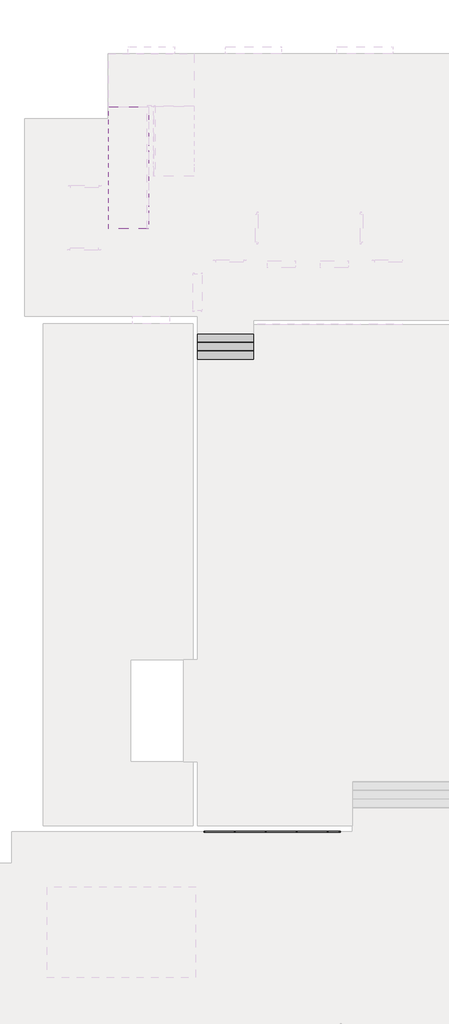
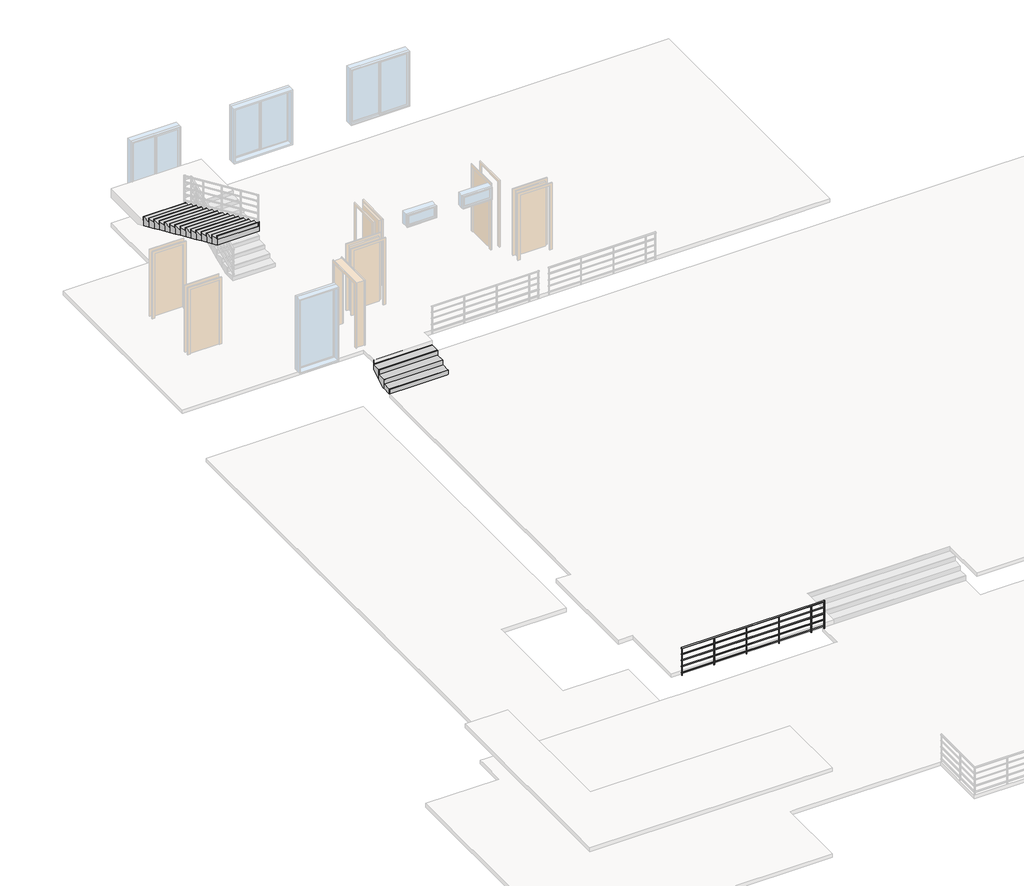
# One storey, part 3 of 5: 2 stair flights, 1 railing.
"""IFC4 building model written with IfcOpenShell, lengths in millimetres."""

from ifc_helpers import new_model, si_unit, point, frame, frame_2d, origin, place, context, project, spatial, polyline, circle_curve, trimmed, segment, composite_curve, outline, extrude, faceted_brep, element, save

model = new_model("IFC4")

# Units and contexts
model_context = context("Model", 3, world=origin())
ifc_project = project(units=[si_unit("LENGTHUNIT", "METRE", prefix="MILLI")], contexts=[model_context])

# Site, building, storey
site = spatial("IfcSite", under=ifc_project)
building = spatial("IfcBuilding", under=site)
storey = spatial("IfcBuildingStorey", under=building, Name="标高 1", Elevation=0.0)

# Railing
placement = place(None, origin())
element("IfcRailing", 1, ObjectType="900mm 圆管", at=placement, inside=storey, context=model_context, shape_type="SweptSolid", body=[
    extrude(outline(composite_curve([segment(trimmed(circle_curve(frame_2d((544.1658649, 1480.0)), 20.0), [point((524.1658649, 1480.0))], [point((564.1658649, 1480.0))], False, "CARTESIAN"), True, "CONTINUOUS"), segment(trimmed(circle_curve(frame_2d((544.1658649, 1480.0)), 20.0), [point((564.1658649, 1480.0))], [point((524.1658649, 1480.0))], False, "CARTESIAN"), True, "CONTINUOUS")], self_intersect=False)), frame((-2663.2622628, 0.0, 0.0), z_axis=(1.0, 0.0, 0.0), x_axis=(0.0, 1.0, 0.0)), (0.0, 0.0, 1.0), 4400.0),
    extrude(outline(composite_curve([segment(trimmed(circle_curve(frame_2d((544.1658649, 1285.0)), 15.0), [point((559.1658649, 1285.0))], [point((529.1658649, 1285.0))], False, "CARTESIAN"), True, "CONTINUOUS"), segment(trimmed(circle_curve(frame_2d((544.1658649, 1285.0)), 15.0), [point((529.1658649, 1285.0))], [point((559.1658649, 1285.0))], False, "CARTESIAN"), True, "CONTINUOUS")], self_intersect=False)), frame((-2663.2622628, 0.0, 0.0), z_axis=(1.0, 0.0, 0.0), x_axis=(0.0, 1.0, 0.0)), (0.0, 0.0, 1.0), 4400.0),
    extrude(outline(composite_curve([segment(trimmed(circle_curve(frame_2d((544.1658649, 1085.0)), 15.0), [point((559.1658649, 1085.0))], [point((529.1658649, 1085.0))], False, "CARTESIAN"), True, "CONTINUOUS"), segment(trimmed(circle_curve(frame_2d((544.1658649, 1085.0)), 15.0), [point((529.1658649, 1085.0))], [point((559.1658649, 1085.0))], False, "CARTESIAN"), True, "CONTINUOUS")], self_intersect=False)), frame((-2663.2622628, 0.0, 0.0), z_axis=(1.0, 0.0, 0.0), x_axis=(0.0, 1.0, 0.0)), (0.0, 0.0, 1.0), 4400.0),
    extrude(outline(composite_curve([segment(trimmed(circle_curve(frame_2d((544.1658649, 885.0)), 15.0), [point((559.1658649, 885.0))], [point((529.1658649, 885.0))], False, "CARTESIAN"), True, "CONTINUOUS"), segment(trimmed(circle_curve(frame_2d((544.1658649, 885.0)), 15.0), [point((529.1658649, 885.0))], [point((559.1658649, 885.0))], False, "CARTESIAN"), True, "CONTINUOUS")], self_intersect=False)), frame((-2663.2622628, 0.0, 0.0), z_axis=(1.0, 0.0, 0.0), x_axis=(0.0, 1.0, 0.0)), (0.0, 0.0, 1.0), 4400.0),
    extrude(outline(composite_curve([segment(trimmed(circle_curve(frame_2d((544.1658649, 685.0)), 15.0), [point((559.1658649, 685.0))], [point((529.1658649, 685.0))], False, "CARTESIAN"), True, "CONTINUOUS"), segment(trimmed(circle_curve(frame_2d((544.1658649, 685.0)), 15.0), [point((529.1658649, 685.0))], [point((559.1658649, 685.0))], False, "CARTESIAN"), True, "CONTINUOUS")], self_intersect=False)), frame((-2663.2622628, 0.0, 0.0), z_axis=(1.0, 0.0, 0.0), x_axis=(0.0, 1.0, 0.0)), (0.0, 0.0, 1.0), 4400.0),
    extrude(outline(composite_curve([segment(trimmed(circle_curve(frame_2d((1336.7377372, 544.1658649)), 12.5), [point((1336.7377372, 556.6658649))], [point((1336.7377372, 531.6658649))], False, "CARTESIAN"), True, "CONTINUOUS"), segment(trimmed(circle_curve(frame_2d((1336.7377372, 544.1658649)), 12.5), [point((1336.7377372, 531.6658649))], [point((1336.7377372, 556.6658649))], False, "CARTESIAN"), True, "CONTINUOUS")], self_intersect=False)), frame((0.0, 0.0, 600.0), z_axis=(0.0, 0.0, 1.0), x_axis=(1.0, 0.0, 0.0)), (0.0, 0.0, 1.0), 860.0),
    extrude(outline(composite_curve([segment(trimmed(circle_curve(frame_2d((336.7377372, 544.1658649)), 12.5), [point((336.7377372, 556.6658649))], [point((336.7377372, 531.6658649))], False, "CARTESIAN"), True, "CONTINUOUS"), segment(trimmed(circle_curve(frame_2d((336.7377372, 544.1658649)), 12.5), [point((336.7377372, 531.6658649))], [point((336.7377372, 556.6658649))], False, "CARTESIAN"), True, "CONTINUOUS")], self_intersect=False)), frame((0.0, 0.0, 600.0), z_axis=(0.0, 0.0, 1.0), x_axis=(1.0, 0.0, 0.0)), (0.0, 0.0, 1.0), 860.0),
    extrude(outline(composite_curve([segment(trimmed(circle_curve(frame_2d((-663.2622628, 544.1658649)), 12.5), [point((-663.2622628, 556.6658649))], [point((-663.2622628, 531.6658649))], False, "CARTESIAN"), True, "CONTINUOUS"), segment(trimmed(circle_curve(frame_2d((-663.2622628, 544.1658649)), 12.5), [point((-663.2622628, 531.6658649))], [point((-663.2622628, 556.6658649))], False, "CARTESIAN"), True, "CONTINUOUS")], self_intersect=False)), frame((0.0, 0.0, 600.0), z_axis=(0.0, 0.0, 1.0), x_axis=(1.0, 0.0, 0.0)), (0.0, 0.0, 1.0), 860.0),
    extrude(outline(composite_curve([segment(trimmed(circle_curve(frame_2d((-1663.2622628, 544.1658649)), 12.5), [point((-1663.2622628, 556.6658649))], [point((-1663.2622628, 531.6658649))], False, "CARTESIAN"), True, "CONTINUOUS"), segment(trimmed(circle_curve(frame_2d((-1663.2622628, 544.1658649)), 12.5), [point((-1663.2622628, 531.6658649))], [point((-1663.2622628, 556.6658649))], False, "CARTESIAN"), True, "CONTINUOUS")], self_intersect=False)), frame((0.0, 0.0, 600.0), z_axis=(0.0, 0.0, 1.0), x_axis=(1.0, 0.0, 0.0)), (0.0, 0.0, 1.0), 860.0),
    extrude(outline(composite_curve([segment(trimmed(circle_curve(frame_2d((1724.2377372, 544.1658649)), 12.5), [point((1724.2377372, 556.6658649))], [point((1724.2377372, 531.6658649))], False, "CARTESIAN"), True, "CONTINUOUS"), segment(trimmed(circle_curve(frame_2d((1724.2377372, 544.1658649)), 12.5), [point((1724.2377372, 531.6658649))], [point((1724.2377372, 556.6658649))], False, "CARTESIAN"), True, "CONTINUOUS")], self_intersect=False)), frame((0.0, 0.0, 600.0), z_axis=(0.0, 0.0, 1.0), x_axis=(1.0, 0.0, 0.0)), (0.0, 0.0, 1.0), 860.0),
    extrude(outline(composite_curve([segment(trimmed(circle_curve(frame_2d((-2650.7622628, 544.1658649)), 12.5), [point((-2650.7622628, 556.6658649))], [point((-2650.7622628, 531.6658649))], False, "CARTESIAN"), True, "CONTINUOUS"), segment(trimmed(circle_curve(frame_2d((-2650.7622628, 544.1658649)), 12.5), [point((-2650.7622628, 531.6658649))], [point((-2650.7622628, 556.6658649))], False, "CARTESIAN"), True, "CONTINUOUS")], self_intersect=False)), frame((0.0, 0.0, 600.0), z_axis=(0.0, 0.0, 1.0), x_axis=(1.0, 0.0, 0.0)), (0.0, 0.0, 1.0), 860.0),
])

# Stair flights
element("IfcStairFlight", 2, ObjectType="150mm 结构深度", at=placement, inside=storey, context=model_context, shape_type="SolidModel", body=[
    faceted_brep([(-4443.2622628, 23631.6658649, 2450.0), (-4443.2622628, 23911.6658649, 2450.0), (-5743.2622628, 23911.6658649, 2450.0), (-5743.2622628, 23631.6658649, 2450.0), (-4443.2622628, 23631.6658649, 2285.7312703), (-4443.2622628, 23911.6658649, 2160.7312703), (-4443.2622628, 23911.6658649, 2325.0), (-5743.2622628, 23911.6658649, 2160.7312703), (-5743.2622628, 23911.6658649, 2325.0), (-5743.2622628, 23631.6658649, 2285.7312703), (-4443.2622628, 23351.6658649, 2575.0), (-4443.2622628, 23631.6658649, 2575.0), (-5743.2622628, 23631.6658649, 2575.0), (-5743.2622628, 23351.6658649, 2575.0), (-4443.2622628, 23351.6658649, 2410.7312703), (-5743.2622628, 23351.6658649, 2410.7312703), (-4443.2622628, 23071.6658649, 2700.0), (-4443.2622628, 23351.6658649, 2700.0), (-5743.2622628, 23351.6658649, 2700.0), (-5743.2622628, 23071.6658649, 2700.0), (-4443.2622628, 23071.6658649, 2535.7312703), (-5743.2622628, 23071.6658649, 2535.7312703), (-4443.2622628, 22791.6658649, 2825.0), (-4443.2622628, 23071.6658649, 2825.0), (-5743.2622628, 23071.6658649, 2825.0), (-5743.2622628, 22791.6658649, 2825.0), (-4443.2622628, 22791.6658649, 2660.7312703), (-5743.2622628, 22791.6658649, 2660.7312703), (-4443.2622628, 22511.6658649, 2950.0), (-4443.2622628, 22791.6658649, 2950.0), (-5743.2622628, 22791.6658649, 2950.0), (-5743.2622628, 22511.6658649, 2950.0), (-4443.2622628, 22511.6658649, 2785.7312703), (-5743.2622628, 22511.6658649, 2785.7312703), (-4443.2622628, 22231.6658649, 3075.0), (-4443.2622628, 22511.6658649, 3075.0), (-5743.2622628, 22511.6658649, 3075.0), (-5743.2622628, 22231.6658649, 3075.0), (-4443.2622628, 22231.6658649, 2910.7312703), (-5743.2622628, 22231.6658649, 2910.7312703), (-4443.2622628, 21951.6658649, 3200.0), (-4443.2622628, 22231.6658649, 3200.0), (-5743.2622628, 22231.6658649, 3200.0), (-5743.2622628, 21951.6658649, 3200.0), (-4443.2622628, 21951.6658649, 3035.7312703), (-5743.2622628, 21951.6658649, 3035.7312703), (-4443.2622628, 21671.6658649, 3325.0), (-4443.2622628, 21951.6658649, 3325.0), (-5743.2622628, 21951.6658649, 3325.0), (-5743.2622628, 21671.6658649, 3325.0), (-4443.2622628, 21671.6658649, 3160.7312703), (-5743.2622628, 21671.6658649, 3160.7312703), (-4443.2622628, 21391.6658649, 3450.0), (-4443.2622628, 21671.6658649, 3450.0), (-5743.2622628, 21671.6658649, 3450.0), (-5743.2622628, 21391.6658649, 3450.0), (-4443.2622628, 21391.6658649, 3285.7312703), (-5743.2622628, 21391.6658649, 3285.7312703), (-4443.2622628, 21111.6658649, 3575.0), (-4443.2622628, 21391.6658649, 3575.0), (-5743.2622628, 21391.6658649, 3575.0), (-5743.2622628, 21111.6658649, 3575.0), (-4443.2622628, 21111.6658649, 3410.7312703), (-5743.2622628, 21111.6658649, 3410.7312703), (-4443.2622628, 20831.6658649, 3700.0), (-4443.2622628, 21111.6658649, 3700.0), (-5743.2622628, 21111.6658649, 3700.0), (-5743.2622628, 20831.6658649, 3700.0), (-4443.2622628, 20831.6658649, 3535.7312703), (-5743.2622628, 20831.6658649, 3535.7312703), (-4443.2622628, 20551.6658649, 3825.0), (-4443.2622628, 20831.6658649, 3825.0), (-5743.2622628, 20831.6658649, 3825.0), (-5743.2622628, 20551.6658649, 3825.0), (-4443.2622628, 20551.6658649, 3660.7312703), (-5743.2622628, 20551.6658649, 3660.7312703), (-4443.2622628, 20271.6658649, 3950.0), (-4443.2622628, 20551.6658649, 3950.0), (-5743.2622628, 20551.6658649, 3950.0), (-5743.2622628, 20271.6658649, 3950.0), (-4443.2622628, 20271.6658649, 3785.7312703), (-5743.2622628, 20271.6658649, 3785.7312703), (-4443.2622628, 19991.6658649, 4075.0), (-4443.2622628, 20271.6658649, 4075.0), (-5743.2622628, 20271.6658649, 4075.0), (-5743.2622628, 19991.6658649, 4075.0), (-4443.2622628, 19991.6658649, 3910.7312703), (-5743.2622628, 19991.6658649, 3910.7312703)], [[[0, 1, 2, 3]], [[1, 0, 4, 5, 6]], [[2, 1, 6, 5, 7, 8]], [[3, 2, 8, 7, 9]], [[10, 11, 12, 13]], [[11, 10, 14, 4, 0]], [[12, 11, 0, 3]], [[13, 12, 3, 9, 15]], [[16, 17, 18, 19]], [[17, 16, 20, 14, 10]], [[18, 17, 10, 13]], [[19, 18, 13, 15, 21]], [[22, 23, 24, 25]], [[23, 22, 26, 20, 16]], [[24, 23, 16, 19]], [[25, 24, 19, 21, 27]], [[28, 29, 30, 31]], [[29, 28, 32, 26, 22]], [[30, 29, 22, 25]], [[31, 30, 25, 27, 33]], [[34, 35, 36, 37]], [[35, 34, 38, 32, 28]], [[36, 35, 28, 31]], [[37, 36, 31, 33, 39]], [[40, 41, 42, 43]], [[41, 40, 44, 38, 34]], [[42, 41, 34, 37]], [[43, 42, 37, 39, 45]], [[46, 47, 48, 49]], [[47, 46, 50, 44, 40]], [[48, 47, 40, 43]], [[49, 48, 43, 45, 51]], [[52, 53, 54, 55]], [[53, 52, 56, 50, 46]], [[54, 53, 46, 49]], [[55, 54, 49, 51, 57]], [[58, 59, 60, 61]], [[59, 58, 62, 56, 52]], [[60, 59, 52, 55]], [[61, 60, 55, 57, 63]], [[64, 65, 66, 67]], [[65, 64, 68, 62, 58]], [[66, 65, 58, 61]], [[67, 66, 61, 63, 69]], [[70, 71, 72, 73]], [[71, 70, 74, 68, 64]], [[72, 71, 64, 67]], [[73, 72, 67, 69, 75]], [[76, 77, 78, 79]], [[77, 76, 80, 74, 70]], [[78, 77, 70, 73]], [[79, 78, 73, 75, 81]], [[82, 83, 84, 85]], [[83, 82, 86, 80, 76]], [[84, 83, 76, 79]], [[85, 84, 79, 81, 87]], [[82, 85, 87, 86]], [[5, 4, 14, 20, 26, 32, 38, 44, 50, 56, 62, 68, 74, 80, 86, 87, 81, 75, 69, 63, 57, 51, 45, 39, 33, 27, 21, 15, 9, 7]]]),
    extrude(outline(polyline([(-5743.2622628, 23911.6658649), (-5743.2622628, 23924.1658649), (-4443.2622628, 23924.1658649), (-4443.2622628, 23911.6658649), (-5743.2622628, 23911.6658649)])), frame((0.0, 0.0, 2325.0), z_axis=(0.0, 0.0, 1.0), x_axis=(1.0, 0.0, 0.0)), (0.0, 0.0, 1.0), 125.0),
    extrude(outline(polyline([(-5743.2622628, 23631.6658649), (-5743.2622628, 23644.1658649), (-4443.2622628, 23644.1658649), (-4443.2622628, 23631.6658649), (-5743.2622628, 23631.6658649)])), frame((0.0, 0.0, 2450.0), z_axis=(0.0, 0.0, 1.0), x_axis=(1.0, 0.0, 0.0)), (0.0, 0.0, 1.0), 125.0),
    extrude(outline(polyline([(-5743.2622628, 23351.6658649), (-5743.2622628, 23364.1658649), (-4443.2622628, 23364.1658649), (-4443.2622628, 23351.6658649), (-5743.2622628, 23351.6658649)])), frame((0.0, 0.0, 2575.0), z_axis=(0.0, 0.0, 1.0), x_axis=(1.0, 0.0, 0.0)), (0.0, 0.0, 1.0), 125.0),
    extrude(outline(polyline([(-5743.2622628, 23071.6658649), (-5743.2622628, 23084.1658649), (-4443.2622628, 23084.1658649), (-4443.2622628, 23071.6658649), (-5743.2622628, 23071.6658649)])), frame((0.0, 0.0, 2700.0), z_axis=(0.0, 0.0, 1.0), x_axis=(1.0, 0.0, 0.0)), (0.0, 0.0, 1.0), 125.0),
    extrude(outline(polyline([(-5743.2622628, 22791.6658649), (-5743.2622628, 22804.1658649), (-4443.2622628, 22804.1658649), (-4443.2622628, 22791.6658649), (-5743.2622628, 22791.6658649)])), frame((0.0, 0.0, 2825.0), z_axis=(0.0, 0.0, 1.0), x_axis=(1.0, 0.0, 0.0)), (0.0, 0.0, 1.0), 125.0),
    extrude(outline(polyline([(-5743.2622628, 22511.6658649), (-5743.2622628, 22524.1658649), (-4443.2622628, 22524.1658649), (-4443.2622628, 22511.6658649), (-5743.2622628, 22511.6658649)])), frame((0.0, 0.0, 2950.0), z_axis=(0.0, 0.0, 1.0), x_axis=(1.0, 0.0, 0.0)), (0.0, 0.0, 1.0), 125.0),
    extrude(outline(polyline([(-5743.2622628, 22231.6658649), (-5743.2622628, 22244.1658649), (-4443.2622628, 22244.1658649), (-4443.2622628, 22231.6658649), (-5743.2622628, 22231.6658649)])), frame((0.0, 0.0, 3075.0), z_axis=(0.0, 0.0, 1.0), x_axis=(1.0, 0.0, 0.0)), (0.0, 0.0, 1.0), 125.0),
    extrude(outline(polyline([(-5743.2622628, 21951.6658649), (-5743.2622628, 21964.1658649), (-4443.2622628, 21964.1658649), (-4443.2622628, 21951.6658649), (-5743.2622628, 21951.6658649)])), frame((0.0, 0.0, 3200.0), z_axis=(0.0, 0.0, 1.0), x_axis=(1.0, 0.0, 0.0)), (0.0, 0.0, 1.0), 125.0),
    extrude(outline(polyline([(-5743.2622628, 21671.6658649), (-5743.2622628, 21684.1658649), (-4443.2622628, 21684.1658649), (-4443.2622628, 21671.6658649), (-5743.2622628, 21671.6658649)])), frame((0.0, 0.0, 3325.0), z_axis=(0.0, 0.0, 1.0), x_axis=(1.0, 0.0, 0.0)), (0.0, 0.0, 1.0), 125.0),
    extrude(outline(polyline([(-5743.2622628, 21391.6658649), (-5743.2622628, 21404.1658649), (-4443.2622628, 21404.1658649), (-4443.2622628, 21391.6658649), (-5743.2622628, 21391.6658649)])), frame((0.0, 0.0, 3450.0), z_axis=(0.0, 0.0, 1.0), x_axis=(1.0, 0.0, 0.0)), (0.0, 0.0, 1.0), 125.0),
    extrude(outline(polyline([(-5743.2622628, 21111.6658649), (-5743.2622628, 21124.1658649), (-4443.2622628, 21124.1658649), (-4443.2622628, 21111.6658649), (-5743.2622628, 21111.6658649)])), frame((0.0, 0.0, 3575.0), z_axis=(0.0, 0.0, 1.0), x_axis=(1.0, 0.0, 0.0)), (0.0, 0.0, 1.0), 125.0),
    extrude(outline(polyline([(-5743.2622628, 20831.6658649), (-5743.2622628, 20844.1658649), (-4443.2622628, 20844.1658649), (-4443.2622628, 20831.6658649), (-5743.2622628, 20831.6658649)])), frame((0.0, 0.0, 3700.0), z_axis=(0.0, 0.0, 1.0), x_axis=(1.0, 0.0, 0.0)), (0.0, 0.0, 1.0), 125.0),
    extrude(outline(polyline([(-5743.2622628, 20551.6658649), (-5743.2622628, 20564.1658649), (-4443.2622628, 20564.1658649), (-4443.2622628, 20551.6658649), (-5743.2622628, 20551.6658649)])), frame((0.0, 0.0, 3825.0), z_axis=(0.0, 0.0, 1.0), x_axis=(1.0, 0.0, 0.0)), (0.0, 0.0, 1.0), 125.0),
    extrude(outline(polyline([(-5743.2622628, 20271.6658649), (-5743.2622628, 20284.1658649), (-4443.2622628, 20284.1658649), (-4443.2622628, 20271.6658649), (-5743.2622628, 20271.6658649)])), frame((0.0, 0.0, 3950.0), z_axis=(0.0, 0.0, 1.0), x_axis=(1.0, 0.0, 0.0)), (0.0, 0.0, 1.0), 125.0),
    extrude(outline(polyline([(-5743.2622628, 19991.6658649), (-5743.2622628, 20004.1658649), (-4443.2622628, 20004.1658649), (-4443.2622628, 19991.6658649), (-5743.2622628, 19991.6658649)])), frame((0.0, 0.0, 4075.0), z_axis=(0.0, 0.0, 1.0), x_axis=(1.0, 0.0, 0.0)), (0.0, 0.0, 1.0), 125.0),
])
element("IfcStairFlight", 3, ObjectType="150mm 结构深度", at=placement, inside=storey, context=model_context, shape_type="SolidModel", body=[
    faceted_brep([(-2863.2622628, 16066.6658649, 750.0), (-2863.2622628, 15786.6658649, 750.0), (-1063.2622628, 15786.6658649, 750.0), (-1063.2622628, 16066.6658649, 750.0), (-2863.2622628, 16066.6658649, 600.0), (-2863.2622628, 15786.6658649, 600.0), (-1063.2622628, 15786.6658649, 600.0), (-1063.2622628, 16066.6658649, 600.0), (-2863.2622628, 16346.6658649, 900.0), (-2863.2622628, 16066.6658649, 900.0), (-1063.2622628, 16066.6658649, 900.0), (-1063.2622628, 16346.6658649, 900.0), (-2863.2622628, 16346.6658649, 729.831641), (-2863.2622628, 16104.3134684, 600.0), (-1063.2622628, 16104.3134684, 600.0), (-1063.2622628, 16346.6658649, 729.831641), (-2863.2622628, 16626.6658649, 1050.0), (-2863.2622628, 16346.6658649, 1050.0), (-1063.2622628, 16346.6658649, 1050.0), (-1063.2622628, 16626.6658649, 1050.0), (-2863.2622628, 16626.6658649, 879.831641), (-1063.2622628, 16626.6658649, 879.831641)], [[[0, 1, 2, 3]], [[1, 0, 4, 5]], [[2, 1, 5, 6]], [[3, 2, 6, 7]], [[8, 9, 10, 11]], [[4, 0, 9, 8, 12, 13]], [[0, 3, 10, 9]], [[3, 7, 14, 15, 11, 10]], [[16, 17, 18, 19]], [[17, 16, 20, 12, 8]], [[8, 11, 18, 17]], [[19, 18, 11, 15, 21]], [[16, 19, 21, 20]], [[5, 4, 13, 14, 7, 6]], [[14, 13, 12, 20, 21, 15]]]),
    extrude(outline(polyline([(-1063.2622628, 15786.6658649), (-1063.2622628, 15774.1658649), (-2863.2622628, 15774.1658649), (-2863.2622628, 15786.6658649), (-1063.2622628, 15786.6658649)])), frame((0.0, 0.0, 600.0), z_axis=(0.0, 0.0, 1.0), x_axis=(1.0, 0.0, 0.0)), (0.0, 0.0, 1.0), 150.0),
    extrude(outline(polyline([(-1063.2622628, 16066.6658649), (-1063.2622628, 16054.1658649), (-2863.2622628, 16054.1658649), (-2863.2622628, 16066.6658649), (-1063.2622628, 16066.6658649)])), frame((0.0, 0.0, 750.0), z_axis=(0.0, 0.0, 1.0), x_axis=(1.0, 0.0, 0.0)), (0.0, 0.0, 1.0), 150.0),
    extrude(outline(polyline([(-1063.2622628, 16346.6658649), (-1063.2622628, 16334.1658649), (-2863.2622628, 16334.1658649), (-2863.2622628, 16346.6658649), (-1063.2622628, 16346.6658649)])), frame((0.0, 0.0, 900.0), z_axis=(0.0, 0.0, 1.0), x_axis=(1.0, 0.0, 0.0)), (0.0, 0.0, 1.0), 150.0),
    extrude(outline(polyline([(-1063.2622628, 16626.6658649), (-1063.2622628, 16614.1658649), (-2863.2622628, 16614.1658649), (-2863.2622628, 16626.6658649), (-1063.2622628, 16626.6658649)])), frame((0.0, 0.0, 1050.0), z_axis=(0.0, 0.0, 1.0), x_axis=(1.0, 0.0, 0.0)), (0.0, 0.0, 1.0), 150.0),
])

save(model, "model.ifc")
